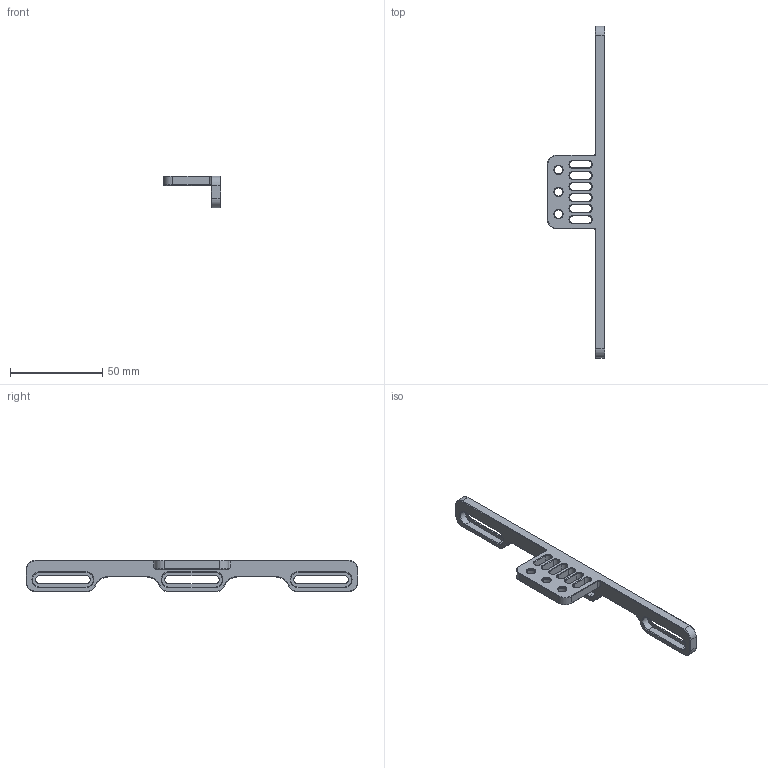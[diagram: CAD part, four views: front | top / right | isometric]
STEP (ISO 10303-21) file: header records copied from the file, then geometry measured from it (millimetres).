
FILE_DESCRIPTION (( 'STEP AP203' ), '1' );
FILE_NAME ('樓詢啣.STEP', '2026-10-10T09:20:02', ( '' ), ( '' ), 'SwSTEP 2.0', 'SolidWorks 2024', '' );
FILE_SCHEMA (( 'CONFIG_CONTROL_DESIGN' ));
Length unit declared in the file: millimetre
Products named in the file (1): 加高板
Bounding box: 31 x 180 x 17 mm (x, y, z)
Volume: 12224 mm3; surface area: 9879.3 mm2
Topology: 1 solids, 1 shells, 251 faces, 587 edges, 344 vertices
Faces by surface type: plane 103, cone 90, cylinder 58
Entity records: 7160 total; most frequent: DIRECTION 1299, CARTESIAN_POINT 1189, ORIENTED_EDGE 1174, EDGE_CURVE 587, AXIS2_PLACEMENT_3D 462, LINE 375, VECTOR 375, VERTEX_POINT 344
